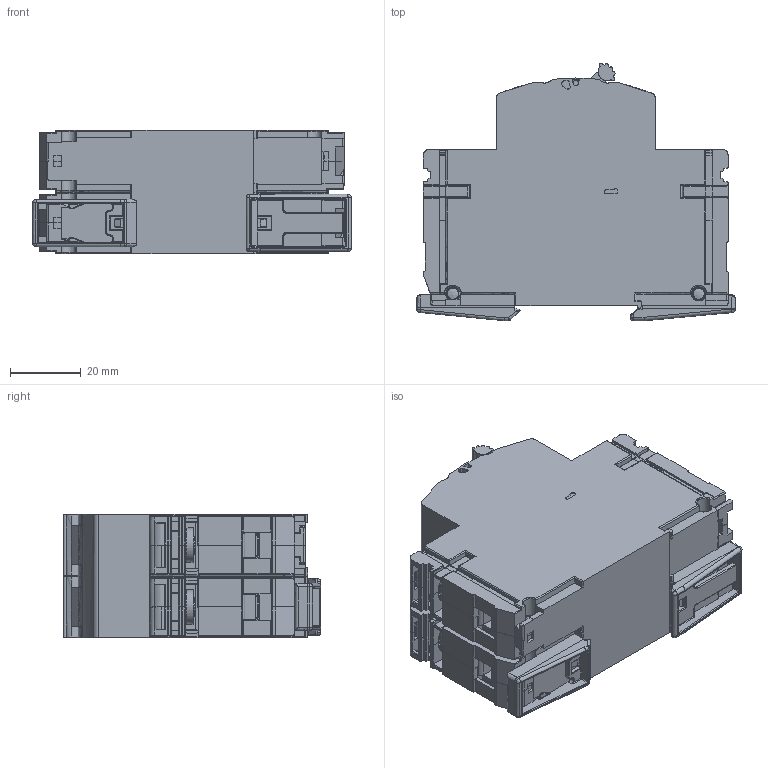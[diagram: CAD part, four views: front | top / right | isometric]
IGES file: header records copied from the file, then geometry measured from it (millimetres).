
Start section: SolidWorks IGES file using analytic representation for surfaces
Global section: file name: U:\14_RD\05_Technical_office\04_Office\Hrdinova\3D modely - IGES\Minia\APN-2.IGS; native system: SolidWorks 2011; preprocessor: SolidWorks 2011; author: adhrja3; date: 170615.070134; units: millimetre
Bounding box: 90.21 x 72.92 x 35.08 mm (x, y, z)
Surface area: 34696.1 mm2 (no closed solid volume)
Topology: 0 solids, 0 shells, 3176 faces, 23031 edges, 22945 vertices
Faces by surface type: bspline 2126, revolution 1050
